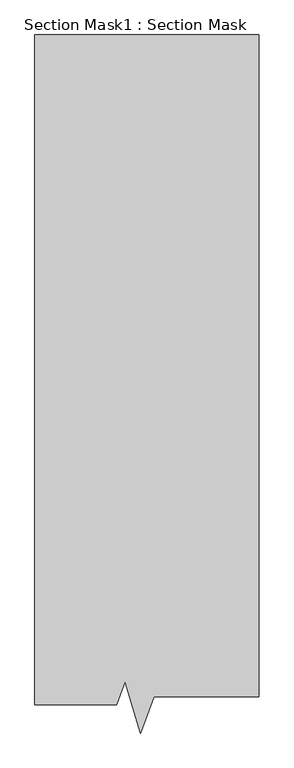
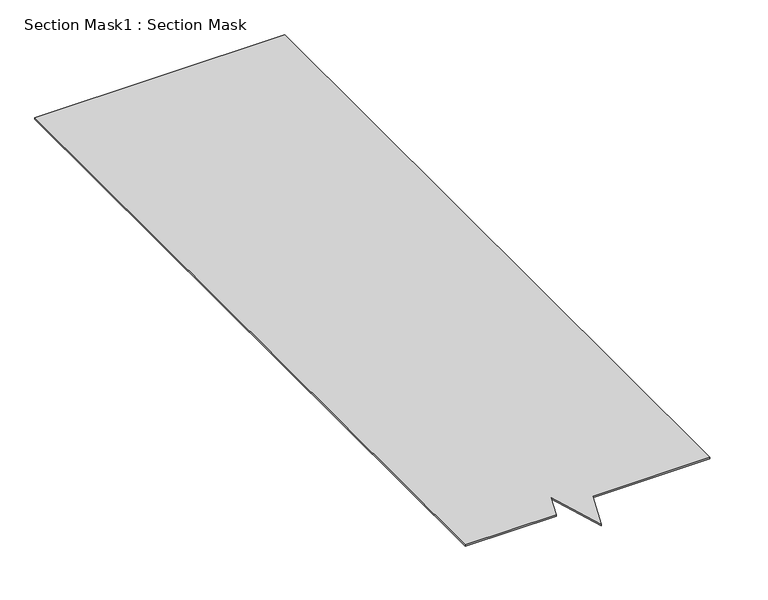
"""IFC4 building model written with IfcOpenShell, lengths in millimetres: proxy geometry, Section Mask1 : Section Mask."""

from ifc_helpers import new_model, si_unit, frame, origin, place, context, project, spatial, polyline, outline, extrude, source, transform, mapped, element, save


def section_mask1_section_mask_337aa853(model_context):
    return source(origin(), model_context, "Body", "SweptSolid", [
        extrude(outline(polyline([(8124.664325, 669.373934), (7900.6222078, 669.373934), (7900.6222078, 2503.5614947), (8515.0051297, 2503.5614947), (8515.0051297, 690.2224056), (8227.2982256, 690.2224056), (8190.6813689, 591.0595639), (8147.6812645, 731.7065681), (8124.664325, 669.373934)])), frame((0.0, 0.0, 45.0273345), z_axis=(0.0, 0.0, 1.0), x_axis=(1.0, 0.0, 0.0)), (0.0, 0.0, 1.0), 3.7483171),
    ])


if __name__ == "__main__":
    model = new_model("IFC4")
    model_context = context("Model", 3, world=origin())
    ifc_project = project(units=[si_unit("LENGTHUNIT", "METRE", prefix="MILLI")], contexts=[model_context])
    site = spatial("IfcSite", under=ifc_project)
    building = spatial("IfcBuilding", under=site)
    placement = place(None, origin())
    section_mask1_section_mask_shape = section_mask1_section_mask_337aa853(model_context)
    element("IfcBuildingElementProxy", 1, Name="Section Mask1 : Section Mask", ObjectType="Section Mask1 : Section Mask", at=placement, inside=building, context=model_context, shape_type="MappedRepresentation", body=[
        mapped(section_mask1_section_mask_shape, transform((0.0, 0.0, 0.0), x_axis=(1.0, 0.0, 0.0), y_axis=(0.0, 1.0, 0.0), z_axis=(0.0, 0.0, 1.0))),
    ])
    save(model, "model.ifc")
